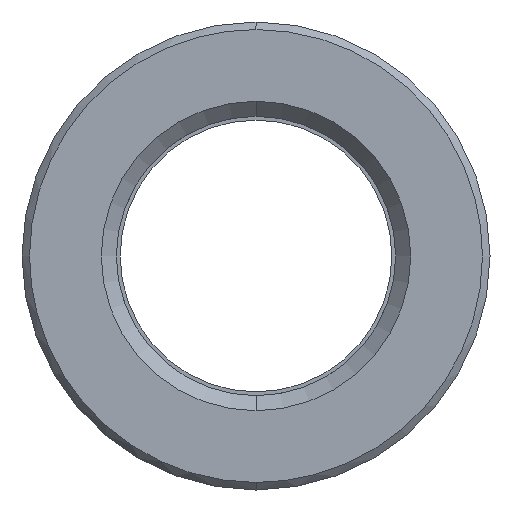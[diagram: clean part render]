
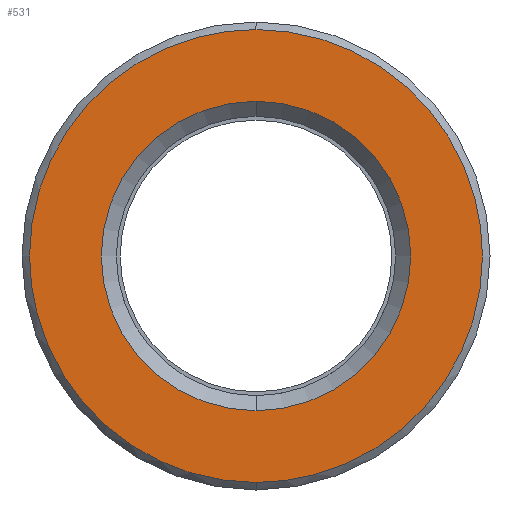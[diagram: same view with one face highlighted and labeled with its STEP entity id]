
A CAD part, left-side view. The second image highlights one B-rep face of the part: STEP entity #531.
In plain terms, the highlighted planar face has unit normal (-1, 0, 0).
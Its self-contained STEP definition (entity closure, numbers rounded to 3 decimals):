
#311=CARTESIAN_POINT('Axis2P3D Location',(0.,0.,0.)) ;
#315=CARTESIAN_POINT('Vertex',(0.,10.25,0.)) ;
#317=CARTESIAN_POINT('Vertex',(0.,0.,10.25)) ;
#320=CARTESIAN_POINT('Axis2P3D Location',(0.,0.,0.)) ;
#324=CARTESIAN_POINT('Vertex',(0.,0.,-10.25)) ;
#351=CARTESIAN_POINT('Axis2P3D Location',(0.,0.,0.)) ;
#355=CARTESIAN_POINT('Vertex',(0.,-10.25,0.)) ;
#358=CARTESIAN_POINT('Axis2P3D Location',(0.,0.,0.)) ;
#438=CARTESIAN_POINT('Axis2P3D Location',(0.,15.,0.)) ;
#444=CARTESIAN_POINT('Control Point',(0.,0.,-15.)) ;
#445=CARTESIAN_POINT('Control Point',(0.,1.359,-15.)) ;
#446=CARTESIAN_POINT('Control Point',(0.,2.718,-14.846)) ;
#447=CARTESIAN_POINT('Control Point',(0.,4.054,-14.538)) ;
#448=CARTESIAN_POINT('Control Point',(0.,6.784,-13.572)) ;
#449=CARTESIAN_POINT('Control Point',(0.,9.211,-11.985)) ;
#450=CARTESIAN_POINT('Control Point',(0.,10.379,-10.99)) ;
#451=CARTESIAN_POINT('Control Point',(0.,12.437,-8.725)) ;
#452=CARTESIAN_POINT('Control Point',(0.,13.866,-6.019)) ;
#453=CARTESIAN_POINT('Control Point',(0.,14.405,-4.583)) ;
#454=CARTESIAN_POINT('Control Point',(0.,14.829,-2.782)) ;
#455=CARTESIAN_POINT('Control Point',(0.,14.975,-0.952)) ;
#456=CARTESIAN_POINT('Control Point',(0.,14.992,-0.635)) ;
#457=CARTESIAN_POINT('Control Point',(0.,15.,-0.317)) ;
#458=CARTESIAN_POINT('Control Point',(0.,15.,0.)) ;
#459=CARTESIAN_POINT('Vertex',(0.,0.,-15.)) ;
#461=CARTESIAN_POINT('Vertex',(0.,15.,0.)) ;
#465=CARTESIAN_POINT('Control Point',(0.,-15.,0.)) ;
#466=CARTESIAN_POINT('Control Point',(0.,-15.,-1.518)) ;
#467=CARTESIAN_POINT('Control Point',(0.,-14.808,-3.036)) ;
#468=CARTESIAN_POINT('Control Point',(0.,-14.424,-4.521)) ;
#469=CARTESIAN_POINT('Control Point',(0.,-13.289,-7.363)) ;
#470=CARTESIAN_POINT('Control Point',(0.,-11.481,-9.832)) ;
#471=CARTESIAN_POINT('Control Point',(0.,-10.425,-10.945)) ;
#472=CARTESIAN_POINT('Control Point',(0.,-8.055,-12.881)) ;
#473=CARTESIAN_POINT('Control Point',(0.,-5.278,-14.165)) ;
#474=CARTESIAN_POINT('Control Point',(0.,-3.815,-14.627)) ;
#475=CARTESIAN_POINT('Control Point',(0.,-2.152,-14.927)) ;
#476=CARTESIAN_POINT('Control Point',(0.,-0.476,-14.994)) ;
#477=CARTESIAN_POINT('Control Point',(0.,-0.317,-14.998)) ;
#478=CARTESIAN_POINT('Control Point',(0.,-0.159,-15.)) ;
#479=CARTESIAN_POINT('Control Point',(0.,0.,-15.)) ;
#480=CARTESIAN_POINT('Vertex',(0.,-15.,0.)) ;
#484=CARTESIAN_POINT('Control Point',(0.,0.,15.)) ;
#485=CARTESIAN_POINT('Control Point',(0.,-1.359,15.)) ;
#486=CARTESIAN_POINT('Control Point',(0.,-2.718,14.846)) ;
#487=CARTESIAN_POINT('Control Point',(0.,-4.054,14.538)) ;
#488=CARTESIAN_POINT('Control Point',(0.,-6.784,13.572)) ;
#489=CARTESIAN_POINT('Control Point',(0.,-9.211,11.985)) ;
#490=CARTESIAN_POINT('Control Point',(0.,-10.379,10.99)) ;
#491=CARTESIAN_POINT('Control Point',(0.,-12.437,8.725)) ;
#492=CARTESIAN_POINT('Control Point',(0.,-13.866,6.019)) ;
#493=CARTESIAN_POINT('Control Point',(0.,-14.405,4.583)) ;
#494=CARTESIAN_POINT('Control Point',(0.,-14.829,2.782)) ;
#495=CARTESIAN_POINT('Control Point',(0.,-14.975,0.952)) ;
#496=CARTESIAN_POINT('Control Point',(0.,-14.992,0.635)) ;
#497=CARTESIAN_POINT('Control Point',(0.,-15.,0.317)) ;
#498=CARTESIAN_POINT('Control Point',(0.,-15.,0.)) ;
#499=CARTESIAN_POINT('Vertex',(0.,0.,15.)) ;
#503=CARTESIAN_POINT('Control Point',(0.,15.,0.)) ;
#504=CARTESIAN_POINT('Control Point',(0.,15.,1.518)) ;
#505=CARTESIAN_POINT('Control Point',(0.,14.808,3.036)) ;
#506=CARTESIAN_POINT('Control Point',(0.,14.424,4.521)) ;
#507=CARTESIAN_POINT('Control Point',(0.,13.289,7.363)) ;
#508=CARTESIAN_POINT('Control Point',(0.,11.481,9.832)) ;
#509=CARTESIAN_POINT('Control Point',(0.,10.425,10.945)) ;
#510=CARTESIAN_POINT('Control Point',(0.,8.055,12.881)) ;
#511=CARTESIAN_POINT('Control Point',(0.,5.278,14.165)) ;
#512=CARTESIAN_POINT('Control Point',(0.,3.815,14.627)) ;
#513=CARTESIAN_POINT('Control Point',(0.,2.152,14.927)) ;
#514=CARTESIAN_POINT('Control Point',(0.,0.476,14.994)) ;
#515=CARTESIAN_POINT('Control Point',(0.,0.317,14.998)) ;
#516=CARTESIAN_POINT('Control Point',(0.,0.159,15.)) ;
#517=CARTESIAN_POINT('Control Point',(0.,0.,15.)) ;
#312=DIRECTION('Axis2P3D Direction',(-1.,0.,0.)) ;
#321=DIRECTION('Axis2P3D Direction',(-1.,0.,0.)) ;
#352=DIRECTION('Axis2P3D Direction',(-1.,0.,0.)) ;
#359=DIRECTION('Axis2P3D Direction',(-1.,0.,0.)) ;
#439=DIRECTION('Axis2P3D Direction',(-1.,0.,0.)) ;
#440=DIRECTION('Axis2P3D XDirection',(0.,0.,1.)) ;
#313=AXIS2_PLACEMENT_3D('Circle Axis2P3D',#311,#312,$) ;
#322=AXIS2_PLACEMENT_3D('Circle Axis2P3D',#320,#321,$) ;
#353=AXIS2_PLACEMENT_3D('Circle Axis2P3D',#351,#352,$) ;
#360=AXIS2_PLACEMENT_3D('Circle Axis2P3D',#358,#359,$) ;
#441=AXIS2_PLACEMENT_3D('Plane Axis2P3D',#438,#439,#440) ;
#520=ORIENTED_EDGE('',*,*,#463,.F.) ;
#521=ORIENTED_EDGE('',*,*,#482,.F.) ;
#522=ORIENTED_EDGE('',*,*,#501,.F.) ;
#523=ORIENTED_EDGE('',*,*,#518,.F.) ;
#526=ORIENTED_EDGE('',*,*,#319,.T.) ;
#527=ORIENTED_EDGE('',*,*,#362,.T.) ;
#528=ORIENTED_EDGE('',*,*,#357,.T.) ;
#529=ORIENTED_EDGE('',*,*,#326,.T.) ;
#530=FACE_BOUND('',#525,.T.) ;
#531=ADVANCED_FACE('553-18X66',(#524,#530),#442,.T.) ;
#443=B_SPLINE_CURVE_WITH_KNOTS('',5,(#444,#445,#446,#447,#448,#449,#450,#451,#452,#453,#454,#455,#456,#457,#458),.UNSPECIFIED.,.F.,.U.,(6,3,3,3,6),(33.321,42.932,53.665,64.398,66.642),.UNSPECIFIED.) ;
#464=B_SPLINE_CURVE_WITH_KNOTS('',5,(#465,#466,#467,#468,#469,#470,#471,#472,#473,#474,#475,#476,#477,#478,#479),.UNSPECIFIED.,.F.,.U.,(6,3,3,3,6),(0.,10.733,21.466,32.199,33.321),.UNSPECIFIED.) ;
#483=B_SPLINE_CURVE_WITH_KNOTS('',5,(#484,#485,#486,#487,#488,#489,#490,#491,#492,#493,#494,#495,#496,#497,#498),.UNSPECIFIED.,.F.,.U.,(6,3,3,3,6),(33.321,42.932,53.665,64.398,66.642),.UNSPECIFIED.) ;
#502=B_SPLINE_CURVE_WITH_KNOTS('',5,(#503,#504,#505,#506,#507,#508,#509,#510,#511,#512,#513,#514,#515,#516,#517),.UNSPECIFIED.,.F.,.U.,(6,3,3,3,6),(0.,10.733,21.466,32.199,33.321),.UNSPECIFIED.) ;
#314=CIRCLE('generated circle',#313,10.25) ;
#323=CIRCLE('generated circle',#322,10.25) ;
#354=CIRCLE('generated circle',#353,10.25) ;
#361=CIRCLE('generated circle',#360,10.25) ;
#319=EDGE_CURVE('',#316,#318,#314,.F.) ;
#326=EDGE_CURVE('',#325,#316,#323,.F.) ;
#357=EDGE_CURVE('',#356,#325,#354,.F.) ;
#362=EDGE_CURVE('',#318,#356,#361,.F.) ;
#463=EDGE_CURVE('',#460,#462,#443,.T.) ;
#482=EDGE_CURVE('',#481,#460,#464,.T.) ;
#501=EDGE_CURVE('',#500,#481,#483,.T.) ;
#518=EDGE_CURVE('',#462,#500,#502,.T.) ;
#519=EDGE_LOOP('',(#520,#521,#522,#523)) ;
#525=EDGE_LOOP('',(#526,#527,#528,#529)) ;
#524=FACE_OUTER_BOUND('',#519,.T.) ;
#442=PLANE('Plane',#441) ;
#316=VERTEX_POINT('',#315) ;
#318=VERTEX_POINT('',#317) ;
#325=VERTEX_POINT('',#324) ;
#356=VERTEX_POINT('',#355) ;
#460=VERTEX_POINT('',#459) ;
#462=VERTEX_POINT('',#461) ;
#481=VERTEX_POINT('',#480) ;
#500=VERTEX_POINT('',#499) ;
